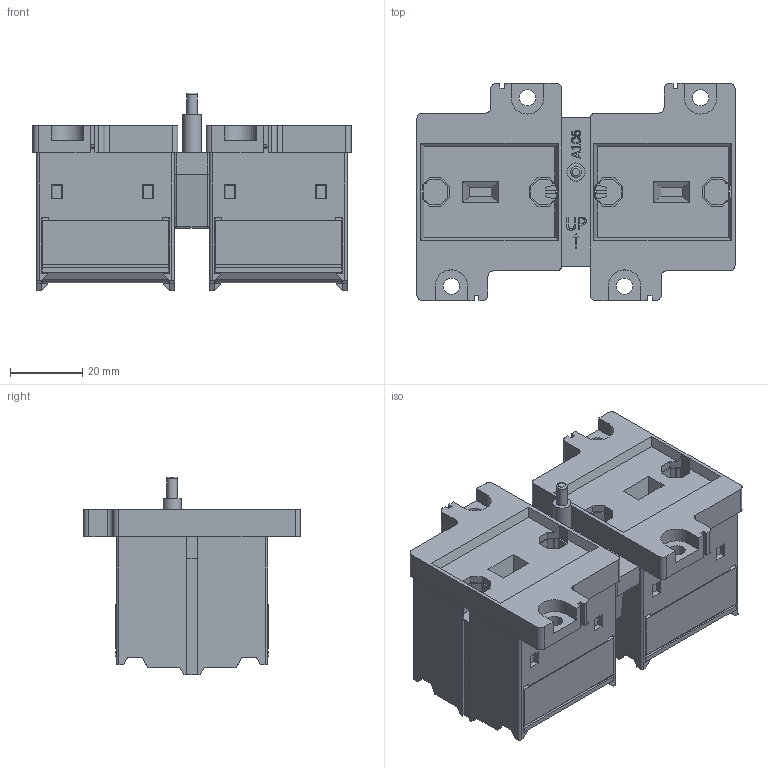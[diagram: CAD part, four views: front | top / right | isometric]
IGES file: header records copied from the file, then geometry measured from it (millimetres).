
Global section: file name: No Iges File Name specified; native system: Autodesk Inventor 2012; preprocessor: AutoDesk Inventor Iges Exporter R2012; author: a.vos; date: 20120112.142739; units: millimetre
Bounding box: 87.8 x 60 x 54.65 mm (x, y, z)
Volume: 133543.5 mm3; surface area: 35654.6 mm2
Topology: 1 solids, 1 shells, 908 faces, 2490 edges, 1583 vertices
Faces by surface type: plane 661, revolution 140, cylinder 50, bspline 48, sphere 8, torus 1
Full cylindrical faces by diameter (mm): 3 x1, 5 x1
